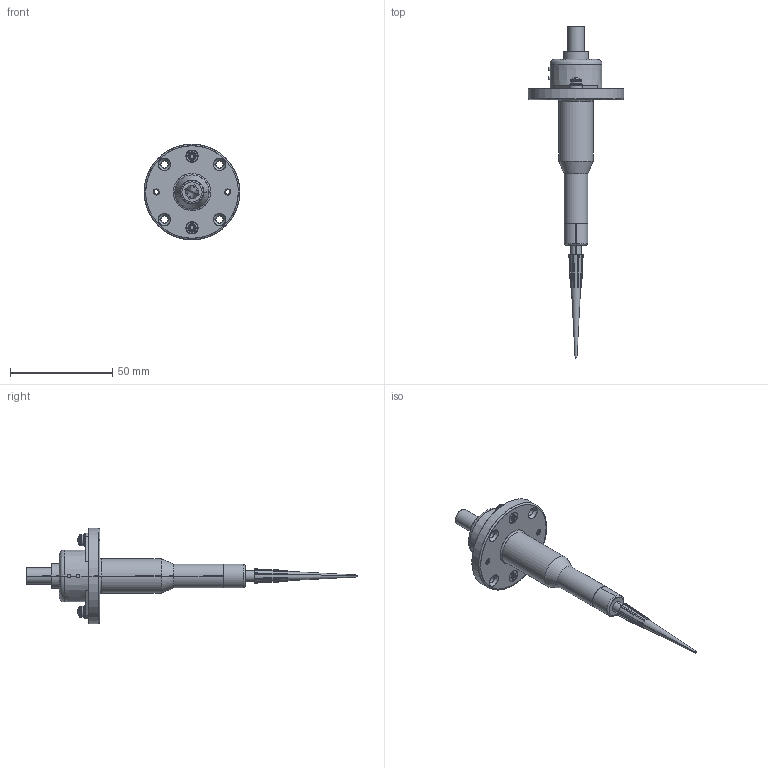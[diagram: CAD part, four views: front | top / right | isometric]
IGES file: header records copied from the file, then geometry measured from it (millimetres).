
Start section: SolidWorks IGES file using analytic representation for surfaces
Global section: file name: C:\SWPDM\GDT\TriContinent\Production Docs\MOD\Assembly Web\MOD91000\MOD91000 RC.IGS; native system: SolidWorks 2017; preprocessor: SolidWorks 2017; author: wlg2015; date: 180418.095622; units: inch
Bounding box: 46.74 x 162.31 x 46.74 mm (x, y, z)
Surface area: 17114.1 mm2 (no closed solid volume)
Topology: 0 solids, 0 shells, 2486 faces, 18648 edges, 18648 vertices
Faces by surface type: bspline 1633, revolution 853
